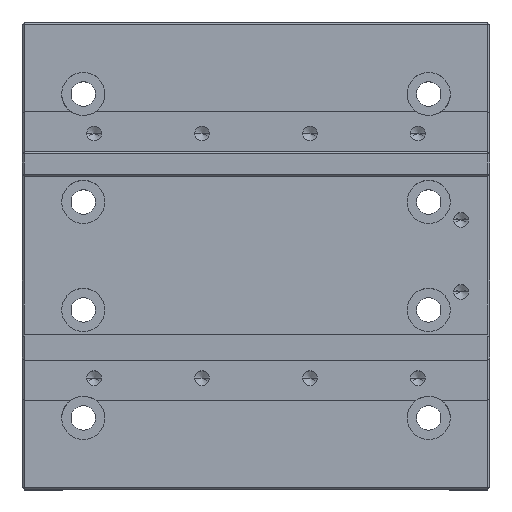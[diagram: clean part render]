
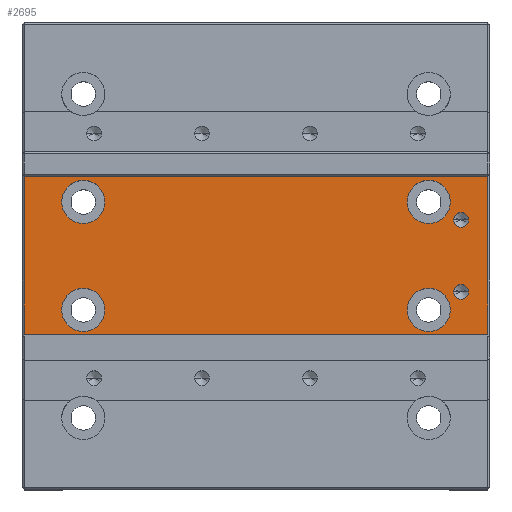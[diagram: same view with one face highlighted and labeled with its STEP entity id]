
A CAD part, top view. The second image highlights one B-rep face of the part: STEP entity #2695.
In plain terms, the highlighted planar face has unit normal (0, 0, 1).
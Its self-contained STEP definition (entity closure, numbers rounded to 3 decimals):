
#42 = CARTESIAN_POINT ( 'NONE',  ( -27., 7.5, 0. ) ) ;
#86 = ORIENTED_EDGE ( 'NONE', *, *, #3850, .T. ) ;
#96 = DIRECTION ( 'NONE',  ( 0., 0., 1. ) ) ;
#98 = EDGE_LOOP ( 'NONE', ( #4939, #5404 ) ) ;
#147 = VECTOR ( 'NONE', #558, 1000. ) ;
#166 = EDGE_CURVE ( 'NONE', #3549, #3532, #5293, .T. ) ;
#185 = DIRECTION ( 'NONE',  ( 0., 0., 1. ) ) ;
#199 = ORIENTED_EDGE ( 'NONE', *, *, #5816, .F. ) ;
#317 = DIRECTION ( 'NONE',  ( 0., 0., 1. ) ) ;
#322 = CARTESIAN_POINT ( 'NONE',  ( 24., -7.5, 0. ) ) ;
#377 = DIRECTION ( 'NONE',  ( 0., 0., 1. ) ) ;
#383 = EDGE_CURVE ( 'NONE', #2303, #385, #5382, .T. ) ;
#385 = VERTEX_POINT ( 'NONE', #5371 ) ;
#399 = PLANE ( 'NONE',  #3022 ) ;
#451 = EDGE_LOOP ( 'NONE', ( #199, #5138 ) ) ;
#480 = VERTEX_POINT ( 'NONE', #5051 ) ;
#549 = VERTEX_POINT ( 'NONE', #3420 ) ;
#558 = DIRECTION ( 'NONE',  ( 0., -1., 0. ) ) ;
#592 = CARTESIAN_POINT ( 'NONE',  ( -32.2, 11., 0. ) ) ;
#601 = ORIENTED_EDGE ( 'NONE', *, *, #4891, .F. ) ;
#604 = CARTESIAN_POINT ( 'NONE',  ( 32.2, -11., 0. ) ) ;
#647 = AXIS2_PLACEMENT_3D ( 'NONE', #2315, #96, #1447 ) ;
#765 = DIRECTION ( 'NONE',  ( 0., 0., 1. ) ) ;
#776 = CARTESIAN_POINT ( 'NONE',  ( 32.2, 11., 0. ) ) ;
#797 = DIRECTION ( 'NONE',  ( 0., 0., 1. ) ) ;
#810 = AXIS2_PLACEMENT_3D ( 'NONE', #4861, #3215, #2577 ) ;
#828 = FACE_BOUND ( 'NONE', #5859, .T. ) ;
#887 = FACE_BOUND ( 'NONE', #451, .T. ) ;
#895 = CIRCLE ( 'NONE', #1672, 1.025 ) ;
#1003 = DIRECTION ( 'NONE',  ( 0., 0., 1. ) ) ;
#1116 = CIRCLE ( 'NONE', #4956, 3. ) ;
#1235 = DIRECTION ( 'NONE',  ( 1., 0., 0. ) ) ;
#1247 = VERTEX_POINT ( 'NONE', #604 ) ;
#1251 = DIRECTION ( 'NONE',  ( 0., 0., 1. ) ) ;
#1286 = CARTESIAN_POINT ( 'NONE',  ( 32.2, 11., 0. ) ) ;
#1289 = CARTESIAN_POINT ( 'NONE',  ( 28.5, 5., 0. ) ) ;
#1296 = CIRCLE ( 'NONE', #2074, 3. ) ;
#1415 = EDGE_CURVE ( 'NONE', #4003, #1247, #5265, .T. ) ;
#1435 = LINE ( 'NONE', #4684, #147 ) ;
#1442 = CARTESIAN_POINT ( 'NONE',  ( 27.475, -5., 0. ) ) ;
#1447 = DIRECTION ( 'NONE',  ( 1., 0., 0. ) ) ;
#1457 = CARTESIAN_POINT ( 'NONE',  ( -27., -7.5, 0. ) ) ;
#1512 = DIRECTION ( 'NONE',  ( 1., 0., 0. ) ) ;
#1548 = EDGE_CURVE ( 'NONE', #385, #2303, #895, .T. ) ;
#1588 = EDGE_LOOP ( 'NONE', ( #4336, #2513, #1601, #86 ) ) ;
#1601 = ORIENTED_EDGE ( 'NONE', *, *, #3628, .T. ) ;
#1603 = VECTOR ( 'NONE', #3650, 1000. ) ;
#1607 = CIRCLE ( 'NONE', #4199, 3. ) ;
#1672 = AXIS2_PLACEMENT_3D ( 'NONE', #1289, #5828, #4899 ) ;
#1702 = CIRCLE ( 'NONE', #3907, 3. ) ;
#1908 = DIRECTION ( 'NONE',  ( 0., 0., 1. ) ) ;
#2074 = AXIS2_PLACEMENT_3D ( 'NONE', #3640, #765, #4572 ) ;
#2118 = CARTESIAN_POINT ( 'NONE',  ( -32.2, -11., 0. ) ) ;
#2243 = VERTEX_POINT ( 'NONE', #1457 ) ;
#2297 = VERTEX_POINT ( 'NONE', #42 ) ;
#2299 = ORIENTED_EDGE ( 'NONE', *, *, #3073, .F. ) ;
#2303 = VERTEX_POINT ( 'NONE', #2325 ) ;
#2315 = CARTESIAN_POINT ( 'NONE',  ( 28.5, -5., 0. ) ) ;
#2325 = CARTESIAN_POINT ( 'NONE',  ( 29.525, 5., 0. ) ) ;
#2426 = EDGE_LOOP ( 'NONE', ( #601, #4535 ) ) ;
#2463 = CIRCLE ( 'NONE', #5329, 3. ) ;
#2464 = AXIS2_PLACEMENT_3D ( 'NONE', #5627, #1908, #1512 ) ;
#2487 = VERTEX_POINT ( 'NONE', #592 ) ;
#2513 = ORIENTED_EDGE ( 'NONE', *, *, #4858, .T. ) ;
#2514 = AXIS2_PLACEMENT_3D ( 'NONE', #4813, #185, #2976 ) ;
#2577 = DIRECTION ( 'NONE',  ( 1., 0., 0. ) ) ;
#2647 = DIRECTION ( 'NONE',  ( 0., 0., 1. ) ) ;
#2666 = CARTESIAN_POINT ( 'NONE',  ( -43.583, 9., 0. ) ) ;
#2685 = VERTEX_POINT ( 'NONE', #5340 ) ;
#2695 = ADVANCED_FACE ( 'NONE', ( #4493, #887, #3137, #3077, #3626, #828, #4518 ), #399, .T. ) ;
#2763 = CIRCLE ( 'NONE', #647, 1.025 ) ;
#2786 = EDGE_CURVE ( 'NONE', #5723, #2297, #4944, .T. ) ;
#2808 = AXIS2_PLACEMENT_3D ( 'NONE', #4050, #3145, #4898 ) ;
#2939 = VECTOR ( 'NONE', #5912, 1000. ) ;
#2976 = DIRECTION ( 'NONE',  ( 1., 0., 0. ) ) ;
#3022 = AXIS2_PLACEMENT_3D ( 'NONE', #2666, #317, #3960 ) ;
#3057 = EDGE_CURVE ( 'NONE', #480, #5854, #3404, .T. ) ;
#3073 = EDGE_CURVE ( 'NONE', #5854, #480, #1296, .T. ) ;
#3077 = FACE_BOUND ( 'NONE', #3330, .T. ) ;
#3089 = CARTESIAN_POINT ( 'NONE',  ( -24., -7.5, 0. ) ) ;
#3135 = LINE ( 'NONE', #3624, #1603 ) ;
#3137 = FACE_BOUND ( 'NONE', #98, .T. ) ;
#3145 = DIRECTION ( 'NONE',  ( 0., 0., 1. ) ) ;
#3191 = ORIENTED_EDGE ( 'NONE', *, *, #3057, .F. ) ;
#3194 = VECTOR ( 'NONE', #3480, 1000. ) ;
#3215 = DIRECTION ( 'NONE',  ( 0., 0., 1. ) ) ;
#3269 = EDGE_CURVE ( 'NONE', #549, #2243, #5238, .T. ) ;
#3274 = ORIENTED_EDGE ( 'NONE', *, *, #383, .F. ) ;
#3330 = EDGE_LOOP ( 'NONE', ( #5512, #3553 ) ) ;
#3404 = CIRCLE ( 'NONE', #810, 3. ) ;
#3420 = CARTESIAN_POINT ( 'NONE',  ( -21., -7.5, 0. ) ) ;
#3433 = VERTEX_POINT ( 'NONE', #1286 ) ;
#3480 = DIRECTION ( 'NONE',  ( 1., 0., 0. ) ) ;
#3532 = VERTEX_POINT ( 'NONE', #5013 ) ;
#3549 = VERTEX_POINT ( 'NONE', #1442 ) ;
#3553 = ORIENTED_EDGE ( 'NONE', *, *, #4472, .F. ) ;
#3624 = CARTESIAN_POINT ( 'NONE',  ( 110.583, 11., 0. ) ) ;
#3626 = FACE_BOUND ( 'NONE', #2426, .T. ) ;
#3628 = EDGE_CURVE ( 'NONE', #3433, #2487, #3135, .T. ) ;
#3640 = CARTESIAN_POINT ( 'NONE',  ( 24., 7.5, 0. ) ) ;
#3650 = DIRECTION ( 'NONE',  ( -1., 0., 0. ) ) ;
#3700 = ORIENTED_EDGE ( 'NONE', *, *, #1548, .F. ) ;
#3783 = VERTEX_POINT ( 'NONE', #5607 ) ;
#3832 = DIRECTION ( 'NONE',  ( 1., 0., 0. ) ) ;
#3850 = EDGE_CURVE ( 'NONE', #2487, #4003, #1435, .T. ) ;
#3907 = AXIS2_PLACEMENT_3D ( 'NONE', #4677, #1003, #3832 ) ;
#3960 = DIRECTION ( 'NONE',  ( 1., 0., 0. ) ) ;
#3970 = CARTESIAN_POINT ( 'NONE',  ( 110.583, -11., 0. ) ) ;
#4003 = VERTEX_POINT ( 'NONE', #2118 ) ;
#4050 = CARTESIAN_POINT ( 'NONE',  ( 28.5, 5., 0. ) ) ;
#4080 = LINE ( 'NONE', #776, #2939 ) ;
#4089 = CARTESIAN_POINT ( 'NONE',  ( -21., 7.5, 0. ) ) ;
#4199 = AXIS2_PLACEMENT_3D ( 'NONE', #5368, #1251, #4498 ) ;
#4336 = ORIENTED_EDGE ( 'NONE', *, *, #1415, .T. ) ;
#4372 = AXIS2_PLACEMENT_3D ( 'NONE', #4917, #797, #5482 ) ;
#4472 = EDGE_CURVE ( 'NONE', #2243, #549, #2463, .T. ) ;
#4493 = FACE_BOUND ( 'NONE', #5931, .T. ) ;
#4498 = DIRECTION ( 'NONE',  ( 1., 0., 0. ) ) ;
#4518 = FACE_OUTER_BOUND ( 'NONE', #1588, .T. ) ;
#4535 = ORIENTED_EDGE ( 'NONE', *, *, #4935, .F. ) ;
#4572 = DIRECTION ( 'NONE',  ( 1., 0., 0. ) ) ;
#4677 = CARTESIAN_POINT ( 'NONE',  ( -24., 7.5, 0. ) ) ;
#4684 = CARTESIAN_POINT ( 'NONE',  ( -32.2, -11., 0. ) ) ;
#4813 = CARTESIAN_POINT ( 'NONE',  ( 28.5, -5., 0. ) ) ;
#4858 = EDGE_CURVE ( 'NONE', #1247, #3433, #4080, .T. ) ;
#4861 = CARTESIAN_POINT ( 'NONE',  ( 24., 7.5, 0. ) ) ;
#4891 = EDGE_CURVE ( 'NONE', #3783, #2685, #1116, .T. ) ;
#4898 = DIRECTION ( 'NONE',  ( 1., 0., 0. ) ) ;
#4899 = DIRECTION ( 'NONE',  ( 1., 0., 0. ) ) ;
#4917 = CARTESIAN_POINT ( 'NONE',  ( -24., 7.5, 0. ) ) ;
#4935 = EDGE_CURVE ( 'NONE', #2685, #3783, #1607, .T. ) ;
#4939 = ORIENTED_EDGE ( 'NONE', *, *, #2786, .F. ) ;
#4944 = CIRCLE ( 'NONE', #4372, 3. ) ;
#4956 = AXIS2_PLACEMENT_3D ( 'NONE', #322, #377, #4983 ) ;
#4983 = DIRECTION ( 'NONE',  ( 1., 0., 0. ) ) ;
#5013 = CARTESIAN_POINT ( 'NONE',  ( 29.525, -5., 0. ) ) ;
#5051 = CARTESIAN_POINT ( 'NONE',  ( 27., 7.5, 0. ) ) ;
#5114 = CARTESIAN_POINT ( 'NONE',  ( 21., 7.5, 0. ) ) ;
#5138 = ORIENTED_EDGE ( 'NONE', *, *, #166, .F. ) ;
#5238 = CIRCLE ( 'NONE', #2464, 3. ) ;
#5265 = LINE ( 'NONE', #3970, #3194 ) ;
#5293 = CIRCLE ( 'NONE', #2514, 1.025 ) ;
#5329 = AXIS2_PLACEMENT_3D ( 'NONE', #3089, #2647, #1235 ) ;
#5340 = CARTESIAN_POINT ( 'NONE',  ( 21., -7.5, 0. ) ) ;
#5368 = CARTESIAN_POINT ( 'NONE',  ( 24., -7.5, 0. ) ) ;
#5371 = CARTESIAN_POINT ( 'NONE',  ( 27.475, 5., 0. ) ) ;
#5382 = CIRCLE ( 'NONE', #2808, 1.025 ) ;
#5404 = ORIENTED_EDGE ( 'NONE', *, *, #5469, .F. ) ;
#5469 = EDGE_CURVE ( 'NONE', #2297, #5723, #1702, .T. ) ;
#5482 = DIRECTION ( 'NONE',  ( 1., 0., 0. ) ) ;
#5512 = ORIENTED_EDGE ( 'NONE', *, *, #3269, .F. ) ;
#5607 = CARTESIAN_POINT ( 'NONE',  ( 27., -7.5, 0. ) ) ;
#5627 = CARTESIAN_POINT ( 'NONE',  ( -24., -7.5, 0. ) ) ;
#5723 = VERTEX_POINT ( 'NONE', #4089 ) ;
#5816 = EDGE_CURVE ( 'NONE', #3532, #3549, #2763, .T. ) ;
#5828 = DIRECTION ( 'NONE',  ( 0., 0., 1. ) ) ;
#5854 = VERTEX_POINT ( 'NONE', #5114 ) ;
#5859 = EDGE_LOOP ( 'NONE', ( #3191, #2299 ) ) ;
#5912 = DIRECTION ( 'NONE',  ( 0., 1., 0. ) ) ;
#5931 = EDGE_LOOP ( 'NONE', ( #3274, #3700 ) ) ;
